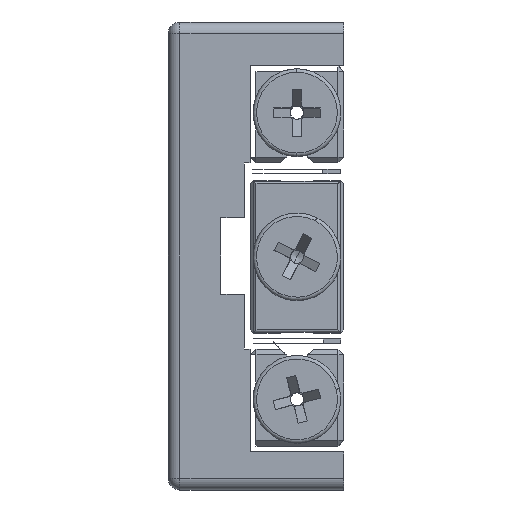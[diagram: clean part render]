
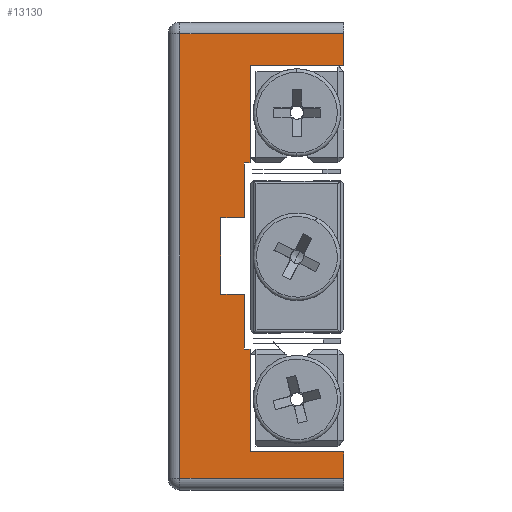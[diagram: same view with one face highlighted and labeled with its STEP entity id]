
A CAD part, left-side view. The second image highlights one B-rep face of the part: STEP entity #13130.
In plain terms, the highlighted planar face has unit normal (-1, 0, 0).
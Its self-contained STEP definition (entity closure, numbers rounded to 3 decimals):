
#1774 = CARTESIAN_POINT ( 'NONE',  ( -46.387, 9.7, 3.25 ) ) ;
#1777 = CARTESIAN_POINT ( 'NONE',  ( -46.387, 13.2, -19. ) ) ;
#1834 = CARTESIAN_POINT ( 'NONE',  ( -46.387, 9.7, -3.25 ) ) ;
#1846 = CARTESIAN_POINT ( 'NONE',  ( -46.387, 7.7, 7.95 ) ) ;
#1909 = CARTESIAN_POINT ( 'NONE',  ( -46.387, -0.8, -16.75 ) ) ;
#1933 = CARTESIAN_POINT ( 'NONE',  ( -46.387, 13.2, 19. ) ) ;
#1958 = CARTESIAN_POINT ( 'NONE',  ( -46.387, 7.2, -16.75 ) ) ;
#2059 = CARTESIAN_POINT ( 'NONE',  ( -46.387, 7.2, -7.95 ) ) ;
#2087 = CARTESIAN_POINT ( 'NONE',  ( -46.387, 7.7, -3.25 ) ) ;
#2129 = CARTESIAN_POINT ( 'NONE',  ( -46.387, 7.2, 16.25 ) ) ;
#2159 = CARTESIAN_POINT ( 'NONE',  ( -46.387, 7.7, 3.25 ) ) ;
#2197 = CARTESIAN_POINT ( 'NONE',  ( -46.387, -0.8, 16.25 ) ) ;
#2240 = CARTESIAN_POINT ( 'NONE',  ( -46.387, -0.8, -19. ) ) ;
#7300 = AXIS2_PLACEMENT_3D ( 'NONE', #12655, #12663, #12664 ) ;
#8665 = ORIENTED_EDGE ( 'NONE', *, *, #11466, .T. ) ;
#8666 = ORIENTED_EDGE ( 'NONE', *, *, #23287, .T. ) ;
#9054 = ORIENTED_EDGE ( 'NONE', *, *, #23295, .T. ) ;
#9060 = ORIENTED_EDGE ( 'NONE', *, *, #23300, .T. ) ;
#9062 = ORIENTED_EDGE ( 'NONE', *, *, #23297, .T. ) ;
#9065 = ORIENTED_EDGE ( 'NONE', *, *, #23292, .F. ) ;
#9067 = ORIENTED_EDGE ( 'NONE', *, *, #23311, .F. ) ;
#9069 = ORIENTED_EDGE ( 'NONE', *, *, #11339, .F. ) ;
#9071 = ORIENTED_EDGE ( 'NONE', *, *, #11244, .F. ) ;
#9072 = ORIENTED_EDGE ( 'NONE', *, *, #11240, .F. ) ;
#9074 = ORIENTED_EDGE ( 'NONE', *, *, #11227, .F. ) ;
#9077 = ORIENTED_EDGE ( 'NONE', *, *, #11257, .F. ) ;
#9081 = ORIENTED_EDGE ( 'NONE', *, *, #11317, .F. ) ;
#9085 = ORIENTED_EDGE ( 'NONE', *, *, #11253, .F. ) ;
#9140 = ORIENTED_EDGE ( 'NONE', *, *, #11264, .F. ) ;
#9283 = ORIENTED_EDGE ( 'NONE', *, *, #11314, .F. ) ;
#11227 = EDGE_CURVE ( 'NONE', #17683, #36024, #13936, .T. ) ;
#11240 = EDGE_CURVE ( 'NONE', #17430, #17683, #13959, .T. ) ;
#11244 = EDGE_CURVE ( 'NONE', #17370, #17430, #13961, .T. ) ;
#11253 = EDGE_CURVE ( 'NONE', #17755, #17370, #13981, .T. ) ;
#11257 = EDGE_CURVE ( 'NONE', #17442, #17755, #13983, .T. ) ;
#11264 = EDGE_CURVE ( 'NONE', #17725, #35855, #14003, .T. ) ;
#11314 = EDGE_CURVE ( 'NONE', #17793, #17725, #14090, .T. ) ;
#11317 = EDGE_CURVE ( 'NONE', #35855, #17442, #14096, .T. ) ;
#11339 = EDGE_CURVE ( 'NONE', #36024, #17655, #14131, .T. ) ;
#11466 = EDGE_CURVE ( 'NONE', #36049, #17529, #14348, .T. ) ;
#11891 = DIRECTION ( 'NONE',  ( 0., 1., 0. ) ) ;
#11896 = CARTESIAN_POINT ( 'NONE',  ( -46.387, 7.7, 7.95 ) ) ;
#11898 = DIRECTION ( 'NONE',  ( 0., 1., 0. ) ) ;
#11949 = CARTESIAN_POINT ( 'NONE',  ( -46.387, 7.2, -7.95 ) ) ;
#11950 = DIRECTION ( 'NONE',  ( 0., -1., 0. ) ) ;
#12305 = CARTESIAN_POINT ( 'NONE',  ( -46.387, 14.2, 19. ) ) ;
#12307 = DIRECTION ( 'NONE',  ( 0., 1., 0. ) ) ;
#12655 = CARTESIAN_POINT ( 'NONE',  ( -46.387, 14.2, -20. ) ) ;
#12660 = PLANE ( 'NONE',  #7300 ) ;
#12663 = DIRECTION ( 'NONE',  ( 1., 0., 0. ) ) ;
#12664 = DIRECTION ( 'NONE',  ( 0., 0., -1. ) ) ;
#13130 = ADVANCED_FACE ( 'NONE', ( #14426 ), #12660, .F. ) ;
#13936 = LINE ( 'NONE', #21779, #13941 ) ;
#13941 = VECTOR ( 'NONE', #21784, 1000. ) ;
#13959 = LINE ( 'NONE', #21830, #13962 ) ;
#13961 = LINE ( 'NONE', #21823, #13970 ) ;
#13962 = VECTOR ( 'NONE', #21832, 1000. ) ;
#13970 = VECTOR ( 'NONE', #21838, 1000. ) ;
#13981 = LINE ( 'NONE', #21860, #13984 ) ;
#13983 = LINE ( 'NONE', #21853, #13992 ) ;
#13984 = VECTOR ( 'NONE', #21862, 1000. ) ;
#13992 = VECTOR ( 'NONE', #21869, 1000. ) ;
#14003 = LINE ( 'NONE', #21882, #14006 ) ;
#14006 = VECTOR ( 'NONE', #21883, 1000. ) ;
#14090 = LINE ( 'NONE', #22024, #14093 ) ;
#14093 = VECTOR ( 'NONE', #11891, 1000. ) ;
#14096 = LINE ( 'NONE', #11896, #14099 ) ;
#14099 = VECTOR ( 'NONE', #11898, 1000. ) ;
#14131 = LINE ( 'NONE', #11949, #14134 ) ;
#14134 = VECTOR ( 'NONE', #11950, 1000. ) ;
#14348 = LINE ( 'NONE', #12305, #14350 ) ;
#14350 = VECTOR ( 'NONE', #12307, 1000. ) ;
#14426 = FACE_OUTER_BOUND ( 'NONE', #23906, .T. ) ;
#17370 = VERTEX_POINT ( 'NONE', #1774 ) ;
#17373 = VERTEX_POINT ( 'NONE', #1777 ) ;
#17430 = VERTEX_POINT ( 'NONE', #1834 ) ;
#17442 = VERTEX_POINT ( 'NONE', #1846 ) ;
#17505 = VERTEX_POINT ( 'NONE', #1909 ) ;
#17529 = VERTEX_POINT ( 'NONE', #1933 ) ;
#17554 = VERTEX_POINT ( 'NONE', #1958 ) ;
#17655 = VERTEX_POINT ( 'NONE', #2059 ) ;
#17683 = VERTEX_POINT ( 'NONE', #2087 ) ;
#17725 = VERTEX_POINT ( 'NONE', #2129 ) ;
#17755 = VERTEX_POINT ( 'NONE', #2159 ) ;
#17793 = VERTEX_POINT ( 'NONE', #2197 ) ;
#17836 = VERTEX_POINT ( 'NONE', #2240 ) ;
#21779 = CARTESIAN_POINT ( 'NONE',  ( -46.387, 7.7, -7.95 ) ) ;
#21784 = DIRECTION ( 'NONE',  ( 0., 0., -1. ) ) ;
#21823 = CARTESIAN_POINT ( 'NONE',  ( -46.387, 9.7, -3.25 ) ) ;
#21830 = CARTESIAN_POINT ( 'NONE',  ( -46.387, 7.7, -3.25 ) ) ;
#21832 = DIRECTION ( 'NONE',  ( 0., -1., 0. ) ) ;
#21838 = DIRECTION ( 'NONE',  ( 0., 0., -1. ) ) ;
#21853 = CARTESIAN_POINT ( 'NONE',  ( -46.387, 7.7, 3.25 ) ) ;
#21860 = CARTESIAN_POINT ( 'NONE',  ( -46.387, 9.7, 3.25 ) ) ;
#21862 = DIRECTION ( 'NONE',  ( 0., 1., 0. ) ) ;
#21869 = DIRECTION ( 'NONE',  ( 0., 0., -1. ) ) ;
#21882 = CARTESIAN_POINT ( 'NONE',  ( -46.387, 7.2, 7.95 ) ) ;
#21883 = DIRECTION ( 'NONE',  ( 0., 0., -1. ) ) ;
#22024 = CARTESIAN_POINT ( 'NONE',  ( -46.387, 7.2, 16.25 ) ) ;
#23287 = EDGE_CURVE ( 'NONE', #17793, #36049, #27307, .T. ) ;
#23292 = EDGE_CURVE ( 'NONE', #17554, #17505, #27310, .T. ) ;
#23295 = EDGE_CURVE ( 'NONE', #17529, #17373, #43488, .T. ) ;
#23297 = EDGE_CURVE ( 'NONE', #17836, #17505, #43491, .T. ) ;
#23300 = EDGE_CURVE ( 'NONE', #17373, #17836, #43495, .T. ) ;
#23311 = EDGE_CURVE ( 'NONE', #17655, #17554, #43504, .T. ) ;
#23906 = EDGE_LOOP ( 'NONE', ( #9054, #9060, #9062, #9065, #9067, #9069, #9074, #9072, #9071, #9085, #9077, #9081, #9140, #9283, #8666, #8665 ) ) ;
#27307 = LINE ( 'NONE', #43081, #27312 ) ;
#27310 = LINE ( 'NONE', #43086, #43487 ) ;
#27312 = VECTOR ( 'NONE', #43075, 1000. ) ;
#31537 = CARTESIAN_POINT ( 'NONE',  ( -46.387, 7.2, 7.95 ) ) ;
#31849 = CARTESIAN_POINT ( 'NONE',  ( -46.387, 7.7, -7.95 ) ) ;
#31894 = CARTESIAN_POINT ( 'NONE',  ( -46.387, -0.8, 19. ) ) ;
#35855 = VERTEX_POINT ( 'NONE', #31537 ) ;
#36024 = VERTEX_POINT ( 'NONE', #31849 ) ;
#36049 = VERTEX_POINT ( 'NONE', #31894 ) ;
#43075 = DIRECTION ( 'NONE',  ( 0., 0., 1. ) ) ;
#43080 = DIRECTION ( 'NONE',  ( 0., -1., 0. ) ) ;
#43081 = CARTESIAN_POINT ( 'NONE',  ( -46.387, -0.8, -20. ) ) ;
#43086 = CARTESIAN_POINT ( 'NONE',  ( -46.387, 7.2, -16.75 ) ) ;
#43091 = CARTESIAN_POINT ( 'NONE',  ( -46.387, 13.2, -20. ) ) ;
#43092 = DIRECTION ( 'NONE',  ( 0., 0., -1. ) ) ;
#43093 = CARTESIAN_POINT ( 'NONE',  ( -46.387, -0.8, -20. ) ) ;
#43094 = DIRECTION ( 'NONE',  ( 0., 0., 1. ) ) ;
#43097 = CARTESIAN_POINT ( 'NONE',  ( -46.387, 14.2, -19. ) ) ;
#43098 = DIRECTION ( 'NONE',  ( 0., -1., 0. ) ) ;
#43109 = CARTESIAN_POINT ( 'NONE',  ( -46.387, 7.2, -16.75 ) ) ;
#43110 = DIRECTION ( 'NONE',  ( 0., 0., -1. ) ) ;
#43487 = VECTOR ( 'NONE', #43080, 1000. ) ;
#43488 = LINE ( 'NONE', #43091, #43492 ) ;
#43491 = LINE ( 'NONE', #43093, #43494 ) ;
#43492 = VECTOR ( 'NONE', #43092, 1000. ) ;
#43494 = VECTOR ( 'NONE', #43094, 1000. ) ;
#43495 = LINE ( 'NONE', #43097, #43498 ) ;
#43498 = VECTOR ( 'NONE', #43098, 1000. ) ;
#43504 = LINE ( 'NONE', #43109, #43507 ) ;
#43507 = VECTOR ( 'NONE', #43110, 1000. ) ;
